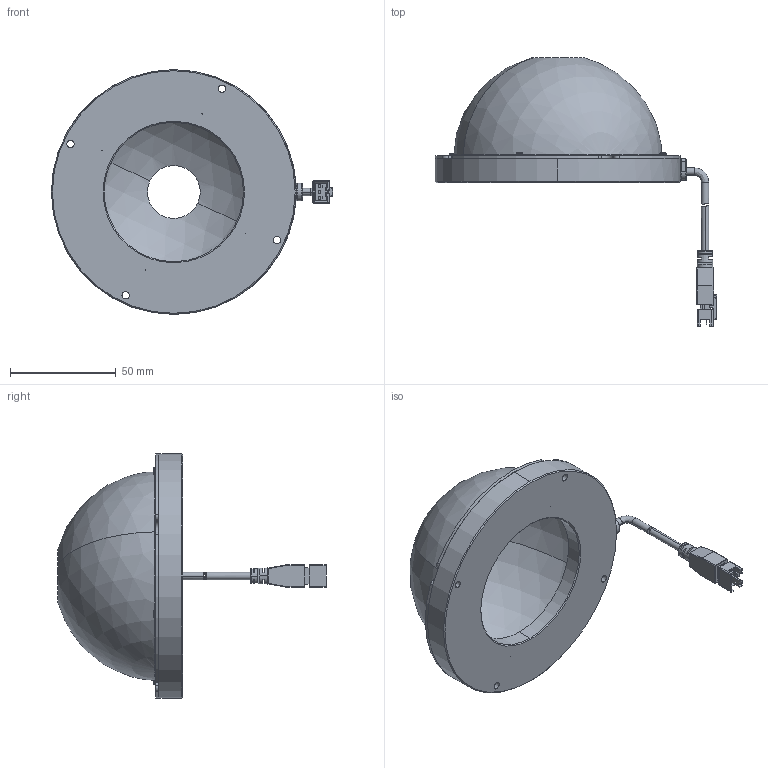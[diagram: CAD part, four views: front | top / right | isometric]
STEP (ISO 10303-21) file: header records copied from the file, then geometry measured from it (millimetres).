
FILE_DESCRIPTION (( 'STEP AP203' ), '1' );
FILE_NAME ('CST-DS116-¼òÒ×3DÍ¼.STEP', '2023-01-12T08:55:05', ( '' ), ( '' ), 'SwSTEP 2.0', 'SolidWorks 2018', '' );
FILE_SCHEMA (( 'CONFIG_CONTROL_DESIGN' ));
Length unit declared in the file: millimetre
Products named in the file (1): CST-DS116-潠眢3D芞
Bounding box: 133.25 x 127.13 x 116 mm (x, y, z)
Volume: 92829.2 mm3; surface area: 67360.9 mm2
Topology: 9 solids, 9 shells, 806 faces, 1997 edges, 1189 vertices
Faces by surface type: cylinder 260, plane 248, bspline 184, torus 60, cone 34, sphere 20
Entity records: 34239 total; most frequent: CARTESIAN_POINT 16638, ORIENTED_EDGE 3898, DIRECTION 3400, EDGE_CURVE 1949, AXIS2_PLACEMENT_3D 1293, VERTEX_POINT 1189, EDGE_LOOP 864, LINE 814
